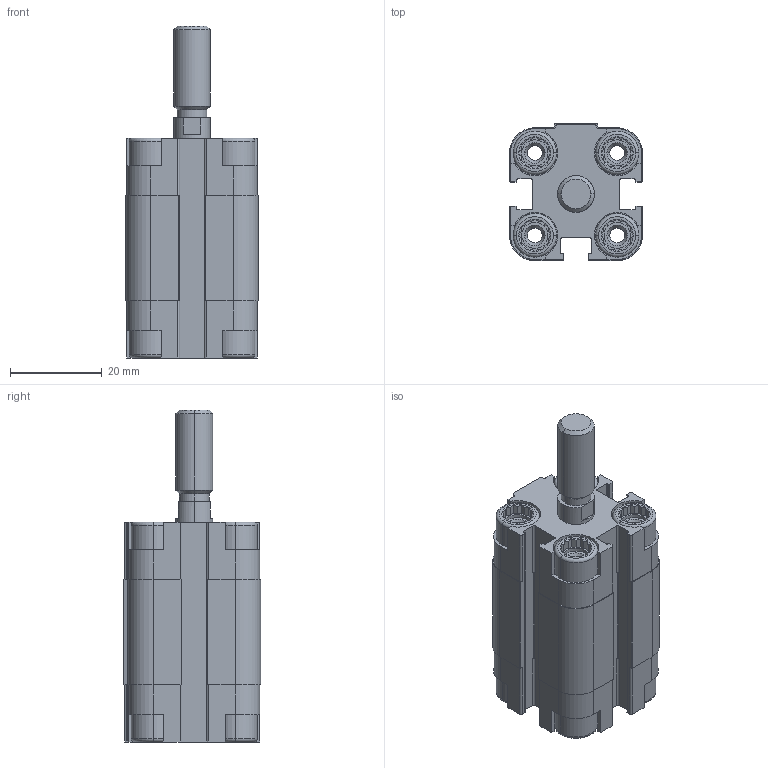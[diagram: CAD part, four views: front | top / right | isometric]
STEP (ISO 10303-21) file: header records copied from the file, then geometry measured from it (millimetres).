
FILE_DESCRIPTION (( 'STEP AP203' ), '1' );
FILE_NAME ('CDVU16-10.STEP', '2020-03-18T10:34:08', ( '' ), ( '' ), 'SwSTEP 2.0', 'SolidWorks 2019', '' );
FILE_SCHEMA (( 'CONFIG_CONTROL_DESIGN' ));
Length unit declared in the file: millimetre
Products named in the file (1): CDVU16-10
Bounding box: 29 x 30 x 72.5 mm (x, y, z)
Volume: 30167.6 mm3; surface area: 16320 mm2
Topology: 2 solids, 2 shells, 553 faces, 1472 edges, 958 vertices
Faces by surface type: plane 333, cylinder 158, cone 46, torus 16
Entity records: 17381 total; most frequent: CARTESIAN_POINT 3556, ORIENTED_EDGE 2936, DIRECTION 2776, EDGE_CURVE 1468, VERTEX_POINT 958, AXIS2_PLACEMENT_3D 946, LINE 884, VECTOR 884
